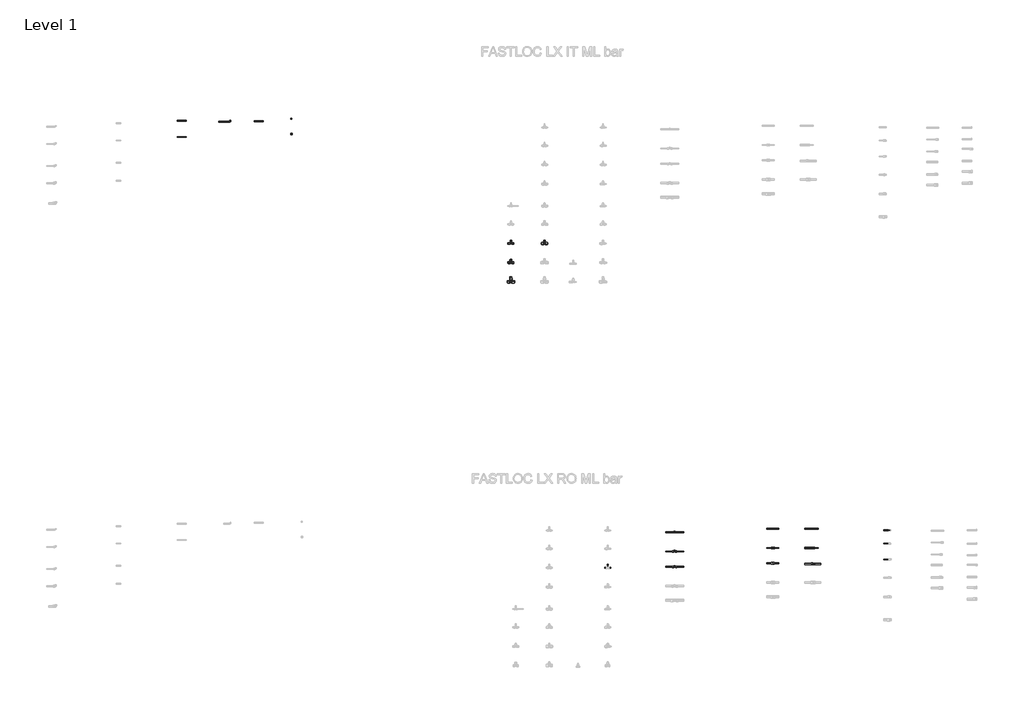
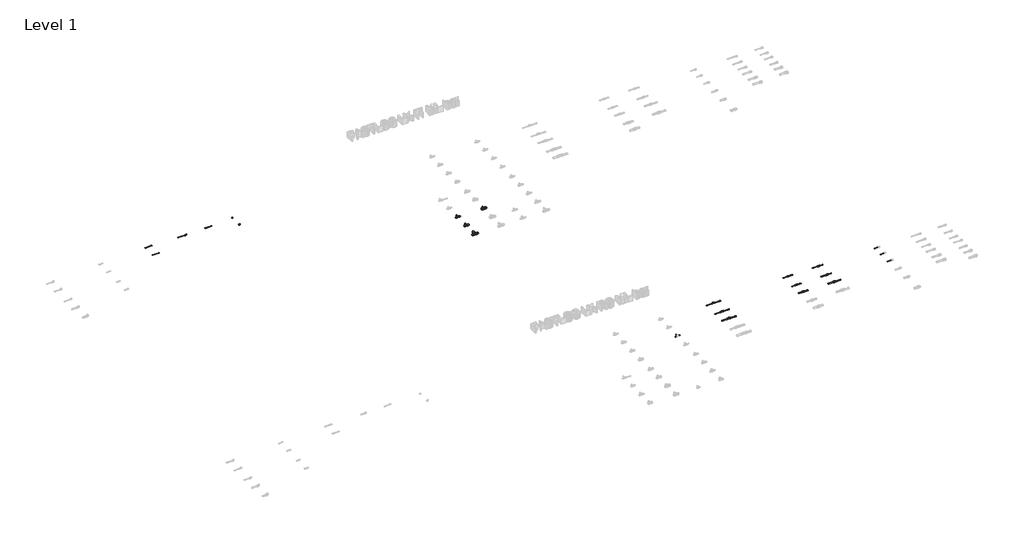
# One storey, part 18 of 78: 40 pipe segments, 16 pipe fittings.
"""IFC4 building model written with IfcOpenShell, lengths in millimetres."""

from ifc_helpers import new_model, si_unit, point, frame, frame_2d, origin, place, context, project, spatial, circle_curve, trimmed, segment, composite_curve, outline, extrude, transform, mapped, element, save
from components import pipe_fitting_ec6341fa, pipe_fitting_027be69e, pipe_fitting_91101529, pipe_fitting_d92d4423, pipe_fitting_0b32e4b0, pipe_fitting_da5243fc, pipe_fitting_29102c59, pipe_fitting_564e9d2e, pipe_fitting_68251213, pipe_fitting_47d0521d, pipe_fitting_29c4d4eb, pipe_fitting_1d22680d, pipe_fitting_5e3c5755, pipe_fitting_0562571e, pipe_fitting_d14a7251, pipe_fitting_24e9e25e

model = new_model("IFC4")

# Units and contexts
model_context = context("Model", 3, world=origin())
ifc_project = project(units=[si_unit("LENGTHUNIT", "METRE", prefix="MILLI")], contexts=[model_context])

# Site, building, storey
site = spatial("IfcSite", under=ifc_project)
building = spatial("IfcBuilding", under=site)
storey = spatial("IfcBuildingStorey", under=building, Name="Level 1", Elevation=0.0)

# Pipe fittings
placement = place(None, origin())
pipe_fitting_shape = pipe_fitting_ec6341fa(model_context)
element("IfcPipeFitting", 1, ObjectType="FASTLOC_Blanking plug LX : FSL Bp LX SK", at=placement, inside=storey, context=model_context, shape_type="MappedRepresentation", body=[
    mapped(pipe_fitting_shape, transform((19535.4857845, -18556.0968766, 0.0), x_axis=(1.0, 0.0, 0.0), y_axis=(0.0, 1.0, 0.0), z_axis=(0.0, 0.0, 1.0))),
])
pipe_fitting_2_shape = pipe_fitting_027be69e(model_context)
element("IfcPipeFitting", 2, ObjectType="FASTLOC_Coupling equal LX : FSL C LX RO", at=placement, inside=storey, context=model_context, shape_type="MappedRepresentation", body=[
    mapped(pipe_fitting_2_shape, transform((29588.3790161, -27105.8821283, 0.0), x_axis=(1.0, 0.0, 0.0), y_axis=(0.0, 1.0, 0.0), z_axis=(0.0, 0.0, 1.0))),
])
pipe_fitting_3_shape = pipe_fitting_91101529(model_context)
element("IfcPipeFitting", 3, ObjectType="FASTLOC_Elbow with male thread G LX : FSL A internal SK", at=placement, inside=storey, context=model_context, shape_type="MappedRepresentation", body=[
    mapped(pipe_fitting_3_shape, transform((18277.9521728, -18619.4468766, 0.0), x_axis=(1.0, 0.0, 0.0), y_axis=(0.0, 1.0, 0.0), z_axis=(0.0, 0.0, 1.0))),
])
pipe_fitting_4_shape = pipe_fitting_d92d4423(model_context)
element("IfcPipeFitting", 4, ObjectType="FASTLOC_T-piece internal thread LX : FSL T thread LX FR", at=placement, inside=storey, context=model_context, shape_type="MappedRepresentation", body=[
    mapped(pipe_fitting_4_shape, transform((27536.609585, -27179.8272875, 0.0), x_axis=(1.0, 0.0, 0.0), y_axis=(0.0, 1.0, 0.0), z_axis=(0.0, 0.0, 1.0))),
])
pipe_fitting_5_shape = pipe_fitting_0b32e4b0(model_context)
element("IfcPipeFitting", 5, ObjectType="FASTLOC_Coupling reduced LX : FSL C LX FR", at=placement, inside=storey, context=model_context, shape_type="MappedRepresentation", body=[
    mapped(pipe_fitting_5_shape, transform((30426.6928556, -27105.8821283, 0.0), x_axis=(1.0, 0.0, 0.0), y_axis=(0.0, 1.0, 0.0), z_axis=(0.0, 0.0, 1.0))),
])
pipe_fitting_6_shape = pipe_fitting_da5243fc(model_context)
element("IfcPipeFitting", 6, ObjectType="FASTLOC_T-piece_LX : FSL T-Piece LX IT", at=placement, inside=storey, context=model_context, shape_type="MappedRepresentation", body=[
    mapped(pipe_fitting_6_shape, transform((24126.7498072, -21160.2405791, 0.0), x_axis=(1.0, 0.0, 0.0), y_axis=(0.0, 1.0, 0.0), z_axis=(0.0, 0.0, 1.0))),
])
pipe_fitting_7_shape = pipe_fitting_29102c59(model_context)
element("IfcPipeFitting", 7, ObjectType="FASTLOC_T-piece_LX : FSL T-Piece LX IT", at=placement, inside=storey, context=model_context, shape_type="MappedRepresentation", body=[
    mapped(pipe_fitting_7_shape, transform((24126.7498072, -21560.2405791, 0.0), x_axis=(1.0, 0.0, 0.0), y_axis=(0.0, 1.0, 0.0), z_axis=(0.0, 0.0, 1.0))),
])
pipe_fitting_8_shape = pipe_fitting_564e9d2e(model_context)
element("IfcPipeFitting", 8, ObjectType="FASTLOC_T-piece_LX : FSL T-Piece LX IT", at=placement, inside=storey, context=model_context, shape_type="MappedRepresentation", body=[
    mapped(pipe_fitting_8_shape, transform((24126.7498072, -21960.2405791, 0.0), x_axis=(1.0, 0.0, 0.0), y_axis=(0.0, 1.0, 0.0), z_axis=(0.0, 0.0, 1.0))),
])
pipe_fitting_9_shape = pipe_fitting_68251213(model_context)
element("IfcPipeFitting", 9, ObjectType="FASTLOC_T-piece_LX : FSL T-Piece LX IT", at=placement, inside=storey, context=model_context, shape_type="MappedRepresentation", body=[
    mapped(pipe_fitting_9_shape, transform((24826.7498072, -21160.2405791, 0.0), x_axis=(1.0, 0.0, 0.0), y_axis=(0.0, 1.0, 0.0), z_axis=(0.0, 0.0, 1.0))),
])
pipe_fitting_10_shape = pipe_fitting_47d0521d(model_context)
element("IfcPipeFitting", 10, ObjectType="FASTLOC_T-piece internal thread LX : FSL T thread LX RO", at=placement, inside=storey, context=model_context, shape_type="MappedRepresentation", body=[
    mapped(pipe_fitting_10_shape, transform((27536.609585, -27579.8272875, 0.0), x_axis=(1.0, 0.0, 0.0), y_axis=(0.0, 1.0, 0.0), z_axis=(0.0, 0.0, 1.0))),
])
pipe_fitting_11_shape = pipe_fitting_29c4d4eb(model_context)
element("IfcPipeFitting", 11, ObjectType="FASTLOC_T-piece internal thread LX : FSL T thread LX RO", at=placement, inside=storey, context=model_context, shape_type="MappedRepresentation", body=[
    mapped(pipe_fitting_11_shape, transform((27536.609585, -27899.8272875, 0.0), x_axis=(1.0, 0.0, 0.0), y_axis=(0.0, 1.0, 0.0), z_axis=(0.0, 0.0, 1.0))),
])
pipe_fitting_12_shape = pipe_fitting_1d22680d(model_context)
element("IfcPipeFitting", 12, ObjectType="FASTLOC_Coupling equal LX : FSL C LX RO", at=placement, inside=storey, context=model_context, shape_type="MappedRepresentation", body=[
    mapped(pipe_fitting_12_shape, transform((29588.3790161, -27505.8821283, 0.0), x_axis=(1.0, 0.0, 0.0), y_axis=(0.0, 1.0, 0.0), z_axis=(0.0, 0.0, 1.0))),
])
pipe_fitting_13_shape = pipe_fitting_5e3c5755(model_context)
element("IfcPipeFitting", 13, ObjectType="FASTLOC_Coupling equal LX : FSL C LX RO", at=placement, inside=storey, context=model_context, shape_type="MappedRepresentation", body=[
    mapped(pipe_fitting_13_shape, transform((29588.3790161, -27825.8821283, 0.0), x_axis=(1.0, 0.0, 0.0), y_axis=(0.0, 1.0, 0.0), z_axis=(0.0, 0.0, 1.0))),
])
pipe_fitting_14_shape = pipe_fitting_0562571e(model_context)
element("IfcPipeFitting", 14, ObjectType="FASTLOC_Coupling reduced LX : FSL C LX RO", at=placement, inside=storey, context=model_context, shape_type="MappedRepresentation", body=[
    mapped(pipe_fitting_14_shape, transform((30426.6928556, -27505.8821283, 0.0), x_axis=(1.0, 0.0, 0.0), y_axis=(0.0, 1.0, 0.0), z_axis=(0.0, 0.0, 1.0))),
])
pipe_fitting_15_shape = pipe_fitting_d14a7251(model_context)
element("IfcPipeFitting", 15, ObjectType="FASTLOC_Coupling reduced LX : FSL C LX RO", at=placement, inside=storey, context=model_context, shape_type="MappedRepresentation", body=[
    mapped(pipe_fitting_15_shape, transform((30426.6928556, -27838.3821283, 0.0), x_axis=(1.0, 0.0, 0.0), y_axis=(0.0, 1.0, 0.0), z_axis=(0.0, 0.0, 1.0))),
])
pipe_fitting_16_shape = pipe_fitting_24e9e25e(model_context)
element("IfcPipeFitting", 16, ObjectType="FASTLOC_Blanking plug LX : FSL Bp LX SK", at=placement, inside=storey, context=model_context, shape_type="MappedRepresentation", body=[
    mapped(pipe_fitting_16_shape, transform((19535.4857845, -18876.0968766, 0.0), x_axis=(1.0, 0.0, 0.0), y_axis=(0.0, 1.0, 0.0), z_axis=(0.0, 0.0, 1.0))),
])

# Pipe segments
element("IfcPipeSegment", 17, ObjectType="FASTLOC LX ML SK bar", at=placement, inside=storey, context=model_context, shape_type="SweptSolid", body=[
    extrude(outline(composite_curve([segment(trimmed(circle_curve(frame_2d((-18556.0968766, 0.0)), 8.0), [point((-18564.0968766, 0.0))], [point((-18556.0968766, 8.0))], False, "CARTESIAN"), True, "CONTINUOUS"), segment(trimmed(circle_curve(frame_2d((-18556.0968766, 0.0)), 8.0), [point((-18556.0968766, 8.0))], [point((-18548.0968766, 0.0))], False, "CARTESIAN"), True, "CONTINUOUS"), segment(trimmed(circle_curve(frame_2d((-18556.0968766, 0.0)), 8.0), [point((-18548.0968766, 0.0))], [point((-18556.0968766, -8.0))], False, "CARTESIAN"), True, "CONTINUOUS"), segment(trimmed(circle_curve(frame_2d((-18556.0968766, 0.0)), 8.0), [point((-18556.0968766, -8.0))], [point((-18564.0968766, 0.0))], False, "CARTESIAN"), True, "CONTINUOUS")], self_intersect=False)), frame((19542.1857845, 0.0, 0.0), z_axis=(1.0, 0.0, 0.0), x_axis=(0.0, 1.0, 0.0)), (0.0, 0.0, 1.0), 14.0),
])
element("IfcPipeSegment", 18, ObjectType="FASTLOC LX ML SK bar", at=placement, inside=storey, context=model_context, shape_type="SweptSolid", body=[
    extrude(outline(composite_curve([segment(trimmed(circle_curve(frame_2d((-18599.4468766, 0.0)), 8.0), [point((-18591.4468766, 0.0))], [point((-18599.4468766, -8.0))], False, "CARTESIAN"), True, "CONTINUOUS"), segment(trimmed(circle_curve(frame_2d((-18599.4468766, 0.0)), 8.0), [point((-18599.4468766, -8.0))], [point((-18607.4468766, 0.0))], False, "CARTESIAN"), True, "CONTINUOUS"), segment(trimmed(circle_curve(frame_2d((-18599.4468766, 0.0)), 8.0), [point((-18607.4468766, 0.0))], [point((-18599.4468766, 8.0))], False, "CARTESIAN"), True, "CONTINUOUS"), segment(trimmed(circle_curve(frame_2d((-18599.4468766, 0.0)), 8.0), [point((-18599.4468766, 8.0))], [point((-18591.4468766, 0.0))], False, "CARTESIAN"), True, "CONTINUOUS")], self_intersect=False)), frame((17170.7335921, 0.0, 0.0), z_axis=(1.0, 0.0, 0.0), x_axis=(0.0, 1.0, 0.0)), (0.0, 0.0, 1.0), 185.0),
])
element("IfcPipeSegment", 19, ObjectType="FASTLOC LX ML SK bar", at=placement, inside=storey, context=model_context, shape_type="SweptSolid", body=[
    extrude(outline(composite_curve([segment(trimmed(circle_curve(frame_2d((-18939.4468766, 0.0)), 8.0), [point((-18931.4468766, 0.0))], [point((-18939.4468766, -8.0))], False, "CARTESIAN"), True, "CONTINUOUS"), segment(trimmed(circle_curve(frame_2d((-18939.4468766, 0.0)), 8.0), [point((-18939.4468766, -8.0))], [point((-18947.4468766, 0.0))], False, "CARTESIAN"), True, "CONTINUOUS"), segment(trimmed(circle_curve(frame_2d((-18939.4468766, 0.0)), 8.0), [point((-18947.4468766, 0.0))], [point((-18939.4468766, 8.0))], False, "CARTESIAN"), True, "CONTINUOUS"), segment(trimmed(circle_curve(frame_2d((-18939.4468766, 0.0)), 8.0), [point((-18939.4468766, 8.0))], [point((-18931.4468766, 0.0))], False, "CARTESIAN"), True, "CONTINUOUS")], self_intersect=False)), frame((17170.7335921, 0.0, 0.0), z_axis=(1.0, 0.0, 0.0), x_axis=(0.0, 1.0, 0.0)), (0.0, 0.0, 1.0), 185.0),
])
element("IfcPipeSegment", 20, ObjectType="FASTLOC LX ML IT bar", at=placement, inside=storey, context=model_context, shape_type="SweptSolid", body=[
    extrude(outline(composite_curve([segment(trimmed(circle_curve(frame_2d((-21160.2405791, 0.0)), 12.5), [point((-21172.7405791, 0.0))], [point((-21160.2405791, 12.5))], False, "CARTESIAN"), True, "CONTINUOUS"), segment(trimmed(circle_curve(frame_2d((-21160.2405791, 0.0)), 12.5), [point((-21160.2405791, 12.5))], [point((-21147.7405791, 0.0))], False, "CARTESIAN"), True, "CONTINUOUS"), segment(trimmed(circle_curve(frame_2d((-21160.2405791, 0.0)), 12.5), [point((-21147.7405791, 0.0))], [point((-21160.2405791, -12.5))], False, "CARTESIAN"), True, "CONTINUOUS"), segment(trimmed(circle_curve(frame_2d((-21160.2405791, 0.0)), 12.5), [point((-21160.2405791, -12.5))], [point((-21172.7405791, 0.0))], False, "CARTESIAN"), True, "CONTINUOUS")], self_intersect=False)), frame((24146.6498072, 0.0, 0.0), z_axis=(1.0, 0.0, 0.0), x_axis=(0.0, 1.0, 0.0)), (0.0, 0.0, 1.0), 42.1),
])
element("IfcPipeSegment", 21, ObjectType="FASTLOC LX ML IT bar", at=placement, inside=storey, context=model_context, shape_type="SweptSolid", body=[
    extrude(outline(composite_curve([segment(trimmed(circle_curve(frame_2d((-21160.2405791, 0.0)), 12.5), [point((-21147.7405791, 0.0))], [point((-21160.2405791, -12.5))], False, "CARTESIAN"), True, "CONTINUOUS"), segment(trimmed(circle_curve(frame_2d((-21160.2405791, 0.0)), 12.5), [point((-21160.2405791, -12.5))], [point((-21172.7405791, 0.0))], False, "CARTESIAN"), True, "CONTINUOUS"), segment(trimmed(circle_curve(frame_2d((-21160.2405791, 0.0)), 12.5), [point((-21172.7405791, 0.0))], [point((-21160.2405791, 12.5))], False, "CARTESIAN"), True, "CONTINUOUS"), segment(trimmed(circle_curve(frame_2d((-21160.2405791, 0.0)), 12.5), [point((-21160.2405791, 12.5))], [point((-21147.7405791, 0.0))], False, "CARTESIAN"), True, "CONTINUOUS")], self_intersect=False)), frame((24064.7498072, 0.0, 0.0), z_axis=(1.0, 0.0, 0.0), x_axis=(0.0, 1.0, 0.0)), (0.0, 0.0, 1.0), 42.1),
])
element("IfcPipeSegment", 22, ObjectType="FASTLOC LX ML IT bar", at=placement, inside=storey, context=model_context, shape_type="SweptSolid", body=[
    extrude(outline(composite_curve([segment(trimmed(circle_curve(frame_2d((0.0, 24126.7498072)), 12.5), [point((0.0, 24139.2498072))], [point((12.5, 24126.7498072))], False, "CARTESIAN"), True, "CONTINUOUS"), segment(trimmed(circle_curve(frame_2d((0.0, 24126.7498072)), 12.5), [point((12.5, 24126.7498072))], [point((0.0, 24114.2498072))], False, "CARTESIAN"), True, "CONTINUOUS"), segment(trimmed(circle_curve(frame_2d((0.0, 24126.7498072)), 12.5), [point((0.0, 24114.2498072))], [point((-12.5, 24126.7498072))], False, "CARTESIAN"), True, "CONTINUOUS"), segment(trimmed(circle_curve(frame_2d((0.0, 24126.7498072)), 12.5), [point((-12.5, 24126.7498072))], [point((0.0, 24139.2498072))], False, "CARTESIAN"), True, "CONTINUOUS")], self_intersect=False)), frame((0.0, -21130.7405791, 0.0), z_axis=(0.0, 1.0, 0.0), x_axis=(0.0, 0.0, 1.0)), (0.0, 0.0, 1.0), 42.8),
])
element("IfcPipeSegment", 23, ObjectType="FASTLOC LX ML IT bar", at=placement, inside=storey, context=model_context, shape_type="SweptSolid", body=[
    extrude(outline(composite_curve([segment(trimmed(circle_curve(frame_2d((-21560.2405791, 0.0)), 16.0), [point((-21576.2405791, 0.0))], [point((-21560.2405791, 16.0))], False, "CARTESIAN"), True, "CONTINUOUS"), segment(trimmed(circle_curve(frame_2d((-21560.2405791, 0.0)), 16.0), [point((-21560.2405791, 16.0))], [point((-21544.2405791, 0.0))], False, "CARTESIAN"), True, "CONTINUOUS"), segment(trimmed(circle_curve(frame_2d((-21560.2405791, 0.0)), 16.0), [point((-21544.2405791, 0.0))], [point((-21560.2405791, -16.0))], False, "CARTESIAN"), True, "CONTINUOUS"), segment(trimmed(circle_curve(frame_2d((-21560.2405791, 0.0)), 16.0), [point((-21560.2405791, -16.0))], [point((-21576.2405791, 0.0))], False, "CARTESIAN"), True, "CONTINUOUS")], self_intersect=False)), frame((24151.5498072, 0.0, 0.0), z_axis=(1.0, 0.0, 0.0), x_axis=(0.0, 1.0, 0.0)), (0.0, 0.0, 1.0), 37.2),
])
element("IfcPipeSegment", 24, ObjectType="FASTLOC LX ML IT bar", at=placement, inside=storey, context=model_context, shape_type="SweptSolid", body=[
    extrude(outline(composite_curve([segment(trimmed(circle_curve(frame_2d((-21560.2405791, 0.0)), 16.0), [point((-21544.2405791, 0.0))], [point((-21560.2405791, -16.0))], False, "CARTESIAN"), True, "CONTINUOUS"), segment(trimmed(circle_curve(frame_2d((-21560.2405791, 0.0)), 16.0), [point((-21560.2405791, -16.0))], [point((-21576.2405791, 0.0))], False, "CARTESIAN"), True, "CONTINUOUS"), segment(trimmed(circle_curve(frame_2d((-21560.2405791, 0.0)), 16.0), [point((-21576.2405791, 0.0))], [point((-21560.2405791, 16.0))], False, "CARTESIAN"), True, "CONTINUOUS"), segment(trimmed(circle_curve(frame_2d((-21560.2405791, 0.0)), 16.0), [point((-21560.2405791, 16.0))], [point((-21544.2405791, 0.0))], False, "CARTESIAN"), True, "CONTINUOUS")], self_intersect=False)), frame((24064.7498072, 0.0, 0.0), z_axis=(1.0, 0.0, 0.0), x_axis=(0.0, 1.0, 0.0)), (0.0, 0.0, 1.0), 37.2),
])
element("IfcPipeSegment", 25, ObjectType="FASTLOC LX ML IT bar", at=placement, inside=storey, context=model_context, shape_type="SweptSolid", body=[
    extrude(outline(composite_curve([segment(trimmed(circle_curve(frame_2d((0.0, 24126.7498072)), 16.0), [point((0.0, 24142.7498072))], [point((16.0, 24126.7498072))], False, "CARTESIAN"), True, "CONTINUOUS"), segment(trimmed(circle_curve(frame_2d((0.0, 24126.7498072)), 16.0), [point((16.0, 24126.7498072))], [point((0.0, 24110.7498072))], False, "CARTESIAN"), True, "CONTINUOUS"), segment(trimmed(circle_curve(frame_2d((0.0, 24126.7498072)), 16.0), [point((0.0, 24110.7498072))], [point((-16.0, 24126.7498072))], False, "CARTESIAN"), True, "CONTINUOUS"), segment(trimmed(circle_curve(frame_2d((0.0, 24126.7498072)), 16.0), [point((-16.0, 24126.7498072))], [point((0.0, 24142.7498072))], False, "CARTESIAN"), True, "CONTINUOUS")], self_intersect=False)), frame((0.0, -21524.1405791, 0.0), z_axis=(0.0, 1.0, 0.0), x_axis=(0.0, 0.0, 1.0)), (0.0, 0.0, 1.0), 36.2),
])
element("IfcPipeSegment", 26, ObjectType="FASTLOC LX ML IT bar", at=placement, inside=storey, context=model_context, shape_type="SweptSolid", body=[
    extrude(outline(composite_curve([segment(trimmed(circle_curve(frame_2d((-21960.2405791, 0.0)), 20.0), [point((-21980.2405791, 0.0))], [point((-21960.2405791, 20.0))], False, "CARTESIAN"), True, "CONTINUOUS"), segment(trimmed(circle_curve(frame_2d((-21960.2405791, 0.0)), 20.0), [point((-21960.2405791, 20.0))], [point((-21940.2405791, 0.0))], False, "CARTESIAN"), True, "CONTINUOUS"), segment(trimmed(circle_curve(frame_2d((-21960.2405791, 0.0)), 20.0), [point((-21940.2405791, 0.0))], [point((-21960.2405791, -20.0))], False, "CARTESIAN"), True, "CONTINUOUS"), segment(trimmed(circle_curve(frame_2d((-21960.2405791, 0.0)), 20.0), [point((-21960.2405791, -20.0))], [point((-21980.2405791, 0.0))], False, "CARTESIAN"), True, "CONTINUOUS")], self_intersect=False)), frame((24158.1498072, 0.0, 0.0), z_axis=(1.0, 0.0, 0.0), x_axis=(0.0, 1.0, 0.0)), (0.0, 0.0, 1.0), 50.0),
])
element("IfcPipeSegment", 27, ObjectType="FASTLOC LX ML IT bar", at=placement, inside=storey, context=model_context, shape_type="SweptSolid", body=[
    extrude(outline(composite_curve([segment(trimmed(circle_curve(frame_2d((-21960.2405791, 0.0)), 20.0), [point((-21940.2405791, 0.0))], [point((-21960.2405791, -20.0))], False, "CARTESIAN"), True, "CONTINUOUS"), segment(trimmed(circle_curve(frame_2d((-21960.2405791, 0.0)), 20.0), [point((-21960.2405791, -20.0))], [point((-21980.2405791, 0.0))], False, "CARTESIAN"), True, "CONTINUOUS"), segment(trimmed(circle_curve(frame_2d((-21960.2405791, 0.0)), 20.0), [point((-21980.2405791, 0.0))], [point((-21960.2405791, 20.0))], False, "CARTESIAN"), True, "CONTINUOUS"), segment(trimmed(circle_curve(frame_2d((-21960.2405791, 0.0)), 20.0), [point((-21960.2405791, 20.0))], [point((-21940.2405791, 0.0))], False, "CARTESIAN"), True, "CONTINUOUS")], self_intersect=False)), frame((24045.3498072, 0.0, 0.0), z_axis=(1.0, 0.0, 0.0), x_axis=(0.0, 1.0, 0.0)), (0.0, 0.0, 1.0), 50.0),
])
element("IfcPipeSegment", 28, ObjectType="FASTLOC LX ML IT bar", at=placement, inside=storey, context=model_context, shape_type="SweptSolid", body=[
    extrude(outline(composite_curve([segment(trimmed(circle_curve(frame_2d((0.0, 24126.7498072)), 20.0), [point((0.0, 24146.7498072))], [point((20.0, 24126.7498072))], False, "CARTESIAN"), True, "CONTINUOUS"), segment(trimmed(circle_curve(frame_2d((0.0, 24126.7498072)), 20.0), [point((20.0, 24126.7498072))], [point((0.0, 24106.7498072))], False, "CARTESIAN"), True, "CONTINUOUS"), segment(trimmed(circle_curve(frame_2d((0.0, 24126.7498072)), 20.0), [point((0.0, 24106.7498072))], [point((-20.0, 24126.7498072))], False, "CARTESIAN"), True, "CONTINUOUS"), segment(trimmed(circle_curve(frame_2d((0.0, 24126.7498072)), 20.0), [point((-20.0, 24126.7498072))], [point((0.0, 24146.7498072))], False, "CARTESIAN"), True, "CONTINUOUS")], self_intersect=False)), frame((0.0, -21915.5405791, 0.0), z_axis=(0.0, 1.0, 0.0), x_axis=(0.0, 0.0, 1.0)), (0.0, 0.0, 1.0), 62.9),
])
element("IfcPipeSegment", 29, ObjectType="FASTLOC LX ML IT bar", at=placement, inside=storey, context=model_context, shape_type="SweptSolid", body=[
    extrude(outline(composite_curve([segment(trimmed(circle_curve(frame_2d((-21160.2405791, 0.0)), 20.0), [point((-21180.2405791, 0.0))], [point((-21160.2405791, 20.0))], False, "CARTESIAN"), True, "CONTINUOUS"), segment(trimmed(circle_curve(frame_2d((-21160.2405791, 0.0)), 20.0), [point((-21160.2405791, 20.0))], [point((-21140.2405791, 0.0))], False, "CARTESIAN"), True, "CONTINUOUS"), segment(trimmed(circle_curve(frame_2d((-21160.2405791, 0.0)), 20.0), [point((-21140.2405791, 0.0))], [point((-21160.2405791, -20.0))], False, "CARTESIAN"), True, "CONTINUOUS"), segment(trimmed(circle_curve(frame_2d((-21160.2405791, 0.0)), 20.0), [point((-21160.2405791, -20.0))], [point((-21180.2405791, 0.0))], False, "CARTESIAN"), True, "CONTINUOUS")], self_intersect=False)), frame((24850.7498072, 0.0, 0.0), z_axis=(1.0, 0.0, 0.0), x_axis=(0.0, 1.0, 0.0)), (0.0, 0.0, 1.0), 45.0),
])
element("IfcPipeSegment", 30, ObjectType="FASTLOC LX ML IT bar", at=placement, inside=storey, context=model_context, shape_type="SweptSolid", body=[
    extrude(outline(composite_curve([segment(trimmed(circle_curve(frame_2d((-21160.2405791, 0.0)), 20.0), [point((-21140.2405791, 0.0))], [point((-21160.2405791, -20.0))], False, "CARTESIAN"), True, "CONTINUOUS"), segment(trimmed(circle_curve(frame_2d((-21160.2405791, 0.0)), 20.0), [point((-21160.2405791, -20.0))], [point((-21180.2405791, 0.0))], False, "CARTESIAN"), True, "CONTINUOUS"), segment(trimmed(circle_curve(frame_2d((-21160.2405791, 0.0)), 20.0), [point((-21180.2405791, 0.0))], [point((-21160.2405791, 20.0))], False, "CARTESIAN"), True, "CONTINUOUS"), segment(trimmed(circle_curve(frame_2d((-21160.2405791, 0.0)), 20.0), [point((-21160.2405791, 20.0))], [point((-21140.2405791, 0.0))], False, "CARTESIAN"), True, "CONTINUOUS")], self_intersect=False)), frame((24757.7498072, 0.0, 0.0), z_axis=(1.0, 0.0, 0.0), x_axis=(0.0, 1.0, 0.0)), (0.0, 0.0, 1.0), 45.0),
])
element("IfcPipeSegment", 31, ObjectType="FASTLOC LX ML RO bar", at=placement, inside=storey, context=model_context, shape_type="SweptSolid", body=[
    extrude(outline(composite_curve([segment(trimmed(circle_curve(frame_2d((-27920.2405791, 0.0)), 8.0), [point((-27928.2405791, 0.0))], [point((-27920.2405791, 8.0))], False, "CARTESIAN"), True, "CONTINUOUS"), segment(trimmed(circle_curve(frame_2d((-27920.2405791, 0.0)), 8.0), [point((-27920.2405791, 8.0))], [point((-27912.2405791, 0.0))], False, "CARTESIAN"), True, "CONTINUOUS"), segment(trimmed(circle_curve(frame_2d((-27920.2405791, 0.0)), 8.0), [point((-27912.2405791, 0.0))], [point((-27920.2405791, -8.0))], False, "CARTESIAN"), True, "CONTINUOUS"), segment(trimmed(circle_curve(frame_2d((-27920.2405791, 0.0)), 8.0), [point((-27920.2405791, -8.0))], [point((-27928.2405791, 0.0))], False, "CARTESIAN"), True, "CONTINUOUS")], self_intersect=False)), frame((26162.2498072, 0.0, 0.0), z_axis=(1.0, 0.0, 0.0), x_axis=(0.0, 1.0, 0.0)), (0.0, 0.0, 1.0), 46.5),
])
element("IfcPipeSegment", 32, ObjectType="FASTLOC LX ML RO bar", at=placement, inside=storey, context=model_context, shape_type="SweptSolid", body=[
    extrude(outline(composite_curve([segment(trimmed(circle_curve(frame_2d((-27920.2405791, 0.0)), 12.5), [point((-27907.7405791, 0.0))], [point((-27920.2405791, -12.5))], False, "CARTESIAN"), True, "CONTINUOUS"), segment(trimmed(circle_curve(frame_2d((-27920.2405791, 0.0)), 12.5), [point((-27920.2405791, -12.5))], [point((-27932.7405791, 0.0))], False, "CARTESIAN"), True, "CONTINUOUS"), segment(trimmed(circle_curve(frame_2d((-27920.2405791, 0.0)), 12.5), [point((-27932.7405791, 0.0))], [point((-27920.2405791, 12.5))], False, "CARTESIAN"), True, "CONTINUOUS"), segment(trimmed(circle_curve(frame_2d((-27920.2405791, 0.0)), 12.5), [point((-27920.2405791, 12.5))], [point((-27907.7405791, 0.0))], False, "CARTESIAN"), True, "CONTINUOUS")], self_intersect=False)), frame((26084.7498072, 0.0, 0.0), z_axis=(1.0, 0.0, 0.0), x_axis=(0.0, 1.0, 0.0)), (0.0, 0.0, 1.0), 45.6),
])
element("IfcPipeSegment", 33, ObjectType="FASTLOC LX ML RO bar", at=placement, inside=storey, context=model_context, shape_type="SweptSolid", body=[
    extrude(outline(composite_curve([segment(trimmed(circle_curve(frame_2d((0.0, 26146.7498072)), 8.0), [point((0.0, 26154.7498072))], [point((8.0, 26146.7498072))], False, "CARTESIAN"), True, "CONTINUOUS"), segment(trimmed(circle_curve(frame_2d((0.0, 26146.7498072)), 8.0), [point((8.0, 26146.7498072))], [point((0.0, 26138.7498072))], False, "CARTESIAN"), True, "CONTINUOUS"), segment(trimmed(circle_curve(frame_2d((0.0, 26146.7498072)), 8.0), [point((0.0, 26138.7498072))], [point((-8.0, 26146.7498072))], False, "CARTESIAN"), True, "CONTINUOUS"), segment(trimmed(circle_curve(frame_2d((0.0, 26146.7498072)), 8.0), [point((-8.0, 26146.7498072))], [point((0.0, 26154.7498072))], False, "CARTESIAN"), True, "CONTINUOUS")], self_intersect=False)), frame((0.0, -27891.1405791, 0.0), z_axis=(0.0, 1.0, 0.0), x_axis=(0.0, 0.0, 1.0)), (0.0, 0.0, 1.0), 43.2),
])
element("IfcPipeSegment", 34, ObjectType="FASTLOC LX ML RO bar", at=placement, inside=storey, context=model_context, shape_type="SweptSolid", body=[
    extrude(outline(composite_curve([segment(trimmed(circle_curve(frame_2d((-27179.8272875, 0.0)), 8.0), [point((-27187.8272875, 0.0))], [point((-27179.8272875, 8.0))], False, "CARTESIAN"), True, "CONTINUOUS"), segment(trimmed(circle_curve(frame_2d((-27179.8272875, 0.0)), 8.0), [point((-27179.8272875, 8.0))], [point((-27171.8272875, 0.0))], False, "CARTESIAN"), True, "CONTINUOUS"), segment(trimmed(circle_curve(frame_2d((-27179.8272875, 0.0)), 8.0), [point((-27171.8272875, 0.0))], [point((-27179.8272875, -8.0))], False, "CARTESIAN"), True, "CONTINUOUS"), segment(trimmed(circle_curve(frame_2d((-27179.8272875, 0.0)), 8.0), [point((-27179.8272875, -8.0))], [point((-27187.8272875, 0.0))], False, "CARTESIAN"), True, "CONTINUOUS")], self_intersect=False)), frame((27558.609585, 0.0, 0.0), z_axis=(1.0, 0.0, 0.0), x_axis=(0.0, 1.0, 0.0)), (0.0, 0.0, 1.0), 170.0),
])
element("IfcPipeSegment", 35, ObjectType="FASTLOC LX ML RO bar", at=placement, inside=storey, context=model_context, shape_type="SweptSolid", body=[
    extrude(outline(composite_curve([segment(trimmed(circle_curve(frame_2d((-27179.8272875, 0.0)), 8.0), [point((-27171.8272875, 0.0))], [point((-27179.8272875, -8.0))], False, "CARTESIAN"), True, "CONTINUOUS"), segment(trimmed(circle_curve(frame_2d((-27179.8272875, 0.0)), 8.0), [point((-27179.8272875, -8.0))], [point((-27187.8272875, 0.0))], False, "CARTESIAN"), True, "CONTINUOUS"), segment(trimmed(circle_curve(frame_2d((-27179.8272875, 0.0)), 8.0), [point((-27187.8272875, 0.0))], [point((-27179.8272875, 8.0))], False, "CARTESIAN"), True, "CONTINUOUS"), segment(trimmed(circle_curve(frame_2d((-27179.8272875, 0.0)), 8.0), [point((-27179.8272875, 8.0))], [point((-27171.8272875, 0.0))], False, "CARTESIAN"), True, "CONTINUOUS")], self_intersect=False)), frame((27349.609585, 0.0, 0.0), z_axis=(1.0, 0.0, 0.0), x_axis=(0.0, 1.0, 0.0)), (0.0, 0.0, 1.0), 165.0),
])
element("IfcPipeSegment", 36, ObjectType="FASTLOC LX ML RO bar", at=placement, inside=storey, context=model_context, shape_type="SweptSolid", body=[
    extrude(outline(composite_curve([segment(trimmed(circle_curve(frame_2d((-27579.8272875, 0.0)), 8.0), [point((-27587.8272875, 0.0))], [point((-27579.8272875, 8.0))], False, "CARTESIAN"), True, "CONTINUOUS"), segment(trimmed(circle_curve(frame_2d((-27579.8272875, 0.0)), 8.0), [point((-27579.8272875, 8.0))], [point((-27571.8272875, 0.0))], False, "CARTESIAN"), True, "CONTINUOUS"), segment(trimmed(circle_curve(frame_2d((-27579.8272875, 0.0)), 8.0), [point((-27571.8272875, 0.0))], [point((-27579.8272875, -8.0))], False, "CARTESIAN"), True, "CONTINUOUS"), segment(trimmed(circle_curve(frame_2d((-27579.8272875, 0.0)), 8.0), [point((-27579.8272875, -8.0))], [point((-27587.8272875, 0.0))], False, "CARTESIAN"), True, "CONTINUOUS")], self_intersect=False)), frame((27559.109585, 0.0, 0.0), z_axis=(1.0, 0.0, 0.0), x_axis=(0.0, 1.0, 0.0)), (0.0, 0.0, 1.0), 169.5),
])
element("IfcPipeSegment", 37, ObjectType="FASTLOC LX ML RO bar", at=placement, inside=storey, context=model_context, shape_type="SweptSolid", body=[
    extrude(outline(composite_curve([segment(trimmed(circle_curve(frame_2d((-27579.8272875, 0.0)), 8.0), [point((-27571.8272875, 0.0))], [point((-27579.8272875, -8.0))], False, "CARTESIAN"), True, "CONTINUOUS"), segment(trimmed(circle_curve(frame_2d((-27579.8272875, 0.0)), 8.0), [point((-27579.8272875, -8.0))], [point((-27587.8272875, 0.0))], False, "CARTESIAN"), True, "CONTINUOUS"), segment(trimmed(circle_curve(frame_2d((-27579.8272875, 0.0)), 8.0), [point((-27587.8272875, 0.0))], [point((-27579.8272875, 8.0))], False, "CARTESIAN"), True, "CONTINUOUS"), segment(trimmed(circle_curve(frame_2d((-27579.8272875, 0.0)), 8.0), [point((-27579.8272875, 8.0))], [point((-27571.8272875, 0.0))], False, "CARTESIAN"), True, "CONTINUOUS")], self_intersect=False)), frame((27349.609585, 0.0, 0.0), z_axis=(1.0, 0.0, 0.0), x_axis=(0.0, 1.0, 0.0)), (0.0, 0.0, 1.0), 164.5),
])
element("IfcPipeSegment", 38, ObjectType="FASTLOC LX ML RO bar", at=placement, inside=storey, context=model_context, shape_type="SweptSolid", body=[
    extrude(outline(composite_curve([segment(trimmed(circle_curve(frame_2d((-27899.8272875, 0.0)), 12.5), [point((-27912.3272875, 0.0))], [point((-27899.8272875, 12.5))], False, "CARTESIAN"), True, "CONTINUOUS"), segment(trimmed(circle_curve(frame_2d((-27899.8272875, 0.0)), 12.5), [point((-27899.8272875, 12.5))], [point((-27887.3272875, 0.0))], False, "CARTESIAN"), True, "CONTINUOUS"), segment(trimmed(circle_curve(frame_2d((-27899.8272875, 0.0)), 12.5), [point((-27887.3272875, 0.0))], [point((-27899.8272875, -12.5))], False, "CARTESIAN"), True, "CONTINUOUS"), segment(trimmed(circle_curve(frame_2d((-27899.8272875, 0.0)), 12.5), [point((-27899.8272875, -12.5))], [point((-27912.3272875, 0.0))], False, "CARTESIAN"), True, "CONTINUOUS")], self_intersect=False)), frame((27563.309585, 0.0, 0.0), z_axis=(1.0, 0.0, 0.0), x_axis=(0.0, 1.0, 0.0)), (0.0, 0.0, 1.0), 165.3),
])
element("IfcPipeSegment", 39, ObjectType="FASTLOC LX ML RO bar", at=placement, inside=storey, context=model_context, shape_type="SweptSolid", body=[
    extrude(outline(composite_curve([segment(trimmed(circle_curve(frame_2d((-27899.8272875, 0.0)), 12.5), [point((-27887.3272875, 0.0))], [point((-27899.8272875, -12.5))], False, "CARTESIAN"), True, "CONTINUOUS"), segment(trimmed(circle_curve(frame_2d((-27899.8272875, 0.0)), 12.5), [point((-27899.8272875, -12.5))], [point((-27912.3272875, 0.0))], False, "CARTESIAN"), True, "CONTINUOUS"), segment(trimmed(circle_curve(frame_2d((-27899.8272875, 0.0)), 12.5), [point((-27912.3272875, 0.0))], [point((-27899.8272875, 12.5))], False, "CARTESIAN"), True, "CONTINUOUS"), segment(trimmed(circle_curve(frame_2d((-27899.8272875, 0.0)), 12.5), [point((-27899.8272875, 12.5))], [point((-27887.3272875, 0.0))], False, "CARTESIAN"), True, "CONTINUOUS")], self_intersect=False)), frame((27349.609585, 0.0, 0.0), z_axis=(1.0, 0.0, 0.0), x_axis=(0.0, 1.0, 0.0)), (0.0, 0.0, 1.0), 160.3),
])
element("IfcPipeSegment", 40, ObjectType="FASTLOC LX ML RO bar", at=placement, inside=storey, context=model_context, shape_type="SweptSolid", body=[
    extrude(outline(composite_curve([segment(trimmed(circle_curve(frame_2d((-27105.8821283, 0.0)), 8.0), [point((-27113.8821283, 0.0))], [point((-27105.8821283, 8.0))], False, "CARTESIAN"), True, "CONTINUOUS"), segment(trimmed(circle_curve(frame_2d((-27105.8821283, 0.0)), 8.0), [point((-27105.8821283, 8.0))], [point((-27097.8821283, 0.0))], False, "CARTESIAN"), True, "CONTINUOUS"), segment(trimmed(circle_curve(frame_2d((-27105.8821283, 0.0)), 8.0), [point((-27097.8821283, 0.0))], [point((-27105.8821283, -8.0))], False, "CARTESIAN"), True, "CONTINUOUS"), segment(trimmed(circle_curve(frame_2d((-27105.8821283, 0.0)), 8.0), [point((-27105.8821283, -8.0))], [point((-27113.8821283, 0.0))], False, "CARTESIAN"), True, "CONTINUOUS")], self_intersect=False)), frame((29595.5790161, 0.0, 0.0), z_axis=(1.0, 0.0, 0.0), x_axis=(0.0, 1.0, 0.0)), (0.0, 0.0, 1.0), 115.0),
])
element("IfcPipeSegment", 41, ObjectType="FASTLOC LX ML RO bar", at=placement, inside=storey, context=model_context, shape_type="SweptSolid", body=[
    extrude(outline(composite_curve([segment(trimmed(circle_curve(frame_2d((-27105.8821283, 0.0)), 8.0), [point((-27097.8821283, 0.0))], [point((-27105.8821283, -8.0))], False, "CARTESIAN"), True, "CONTINUOUS"), segment(trimmed(circle_curve(frame_2d((-27105.8821283, 0.0)), 8.0), [point((-27105.8821283, -8.0))], [point((-27113.8821283, 0.0))], False, "CARTESIAN"), True, "CONTINUOUS"), segment(trimmed(circle_curve(frame_2d((-27105.8821283, 0.0)), 8.0), [point((-27113.8821283, 0.0))], [point((-27105.8821283, 8.0))], False, "CARTESIAN"), True, "CONTINUOUS"), segment(trimmed(circle_curve(frame_2d((-27105.8821283, 0.0)), 8.0), [point((-27105.8821283, 8.0))], [point((-27097.8821283, 0.0))], False, "CARTESIAN"), True, "CONTINUOUS")], self_intersect=False)), frame((29461.1790161, 0.0, 0.0), z_axis=(1.0, 0.0, 0.0), x_axis=(0.0, 1.0, 0.0)), (0.0, 0.0, 1.0), 120.0),
])
element("IfcPipeSegment", 42, ObjectType="FASTLOC LX ML RO bar", at=placement, inside=storey, context=model_context, shape_type="SweptSolid", body=[
    extrude(outline(composite_curve([segment(trimmed(circle_curve(frame_2d((-27505.8821283, 0.0)), 8.0), [point((-27513.8821283, 0.0))], [point((-27505.8821283, 8.0))], False, "CARTESIAN"), True, "CONTINUOUS"), segment(trimmed(circle_curve(frame_2d((-27505.8821283, 0.0)), 8.0), [point((-27505.8821283, 8.0))], [point((-27497.8821283, 0.0))], False, "CARTESIAN"), True, "CONTINUOUS"), segment(trimmed(circle_curve(frame_2d((-27505.8821283, 0.0)), 8.0), [point((-27497.8821283, 0.0))], [point((-27505.8821283, -8.0))], False, "CARTESIAN"), True, "CONTINUOUS"), segment(trimmed(circle_curve(frame_2d((-27505.8821283, 0.0)), 8.0), [point((-27505.8821283, -8.0))], [point((-27513.8821283, 0.0))], False, "CARTESIAN"), True, "CONTINUOUS")], self_intersect=False)), frame((29595.7790161, 0.0, 0.0), z_axis=(1.0, 0.0, 0.0), x_axis=(0.0, 1.0, 0.0)), (0.0, 0.0, 1.0), 114.8),
])
element("IfcPipeSegment", 43, ObjectType="FASTLOC LX ML RO bar", at=placement, inside=storey, context=model_context, shape_type="SweptSolid", body=[
    extrude(outline(composite_curve([segment(trimmed(circle_curve(frame_2d((-27505.8821283, 0.0)), 8.0), [point((-27497.8821283, 0.0))], [point((-27505.8821283, -8.0))], False, "CARTESIAN"), True, "CONTINUOUS"), segment(trimmed(circle_curve(frame_2d((-27505.8821283, 0.0)), 8.0), [point((-27505.8821283, -8.0))], [point((-27513.8821283, 0.0))], False, "CARTESIAN"), True, "CONTINUOUS"), segment(trimmed(circle_curve(frame_2d((-27505.8821283, 0.0)), 8.0), [point((-27513.8821283, 0.0))], [point((-27505.8821283, 8.0))], False, "CARTESIAN"), True, "CONTINUOUS"), segment(trimmed(circle_curve(frame_2d((-27505.8821283, 0.0)), 8.0), [point((-27505.8821283, 8.0))], [point((-27497.8821283, 0.0))], False, "CARTESIAN"), True, "CONTINUOUS")], self_intersect=False)), frame((29461.1790161, 0.0, 0.0), z_axis=(1.0, 0.0, 0.0), x_axis=(0.0, 1.0, 0.0)), (0.0, 0.0, 1.0), 119.8),
])
element("IfcPipeSegment", 44, ObjectType="FASTLOC LX ML RO bar", at=placement, inside=storey, context=model_context, shape_type="SweptSolid", body=[
    extrude(outline(composite_curve([segment(trimmed(circle_curve(frame_2d((-27825.8821283, 0.0)), 12.5), [point((-27838.3821283, 0.0))], [point((-27825.8821283, 12.5))], False, "CARTESIAN"), True, "CONTINUOUS"), segment(trimmed(circle_curve(frame_2d((-27825.8821283, 0.0)), 12.5), [point((-27825.8821283, 12.5))], [point((-27813.3821283, 0.0))], False, "CARTESIAN"), True, "CONTINUOUS"), segment(trimmed(circle_curve(frame_2d((-27825.8821283, 0.0)), 12.5), [point((-27813.3821283, 0.0))], [point((-27825.8821283, -12.5))], False, "CARTESIAN"), True, "CONTINUOUS"), segment(trimmed(circle_curve(frame_2d((-27825.8821283, 0.0)), 12.5), [point((-27825.8821283, -12.5))], [point((-27838.3821283, 0.0))], False, "CARTESIAN"), True, "CONTINUOUS")], self_intersect=False)), frame((29596.3790161, 0.0, 0.0), z_axis=(1.0, 0.0, 0.0), x_axis=(0.0, 1.0, 0.0)), (0.0, 0.0, 1.0), 114.2),
])
element("IfcPipeSegment", 45, ObjectType="FASTLOC LX ML RO bar", at=placement, inside=storey, context=model_context, shape_type="SweptSolid", body=[
    extrude(outline(composite_curve([segment(trimmed(circle_curve(frame_2d((-27825.8821283, 0.0)), 12.5), [point((-27813.3821283, 0.0))], [point((-27825.8821283, -12.5))], False, "CARTESIAN"), True, "CONTINUOUS"), segment(trimmed(circle_curve(frame_2d((-27825.8821283, 0.0)), 12.5), [point((-27825.8821283, -12.5))], [point((-27838.3821283, 0.0))], False, "CARTESIAN"), True, "CONTINUOUS"), segment(trimmed(circle_curve(frame_2d((-27825.8821283, 0.0)), 12.5), [point((-27838.3821283, 0.0))], [point((-27825.8821283, 12.5))], False, "CARTESIAN"), True, "CONTINUOUS"), segment(trimmed(circle_curve(frame_2d((-27825.8821283, 0.0)), 12.5), [point((-27825.8821283, 12.5))], [point((-27813.3821283, 0.0))], False, "CARTESIAN"), True, "CONTINUOUS")], self_intersect=False)), frame((29461.1790161, 0.0, 0.0), z_axis=(1.0, 0.0, 0.0), x_axis=(0.0, 1.0, 0.0)), (0.0, 0.0, 1.0), 119.2),
])
element("IfcPipeSegment", 46, ObjectType="FASTLOC LX ML RO bar", at=placement, inside=storey, context=model_context, shape_type="SweptSolid", body=[
    extrude(outline(composite_curve([segment(trimmed(circle_curve(frame_2d((-27105.8821283, 0.0)), 8.0), [point((-27113.8821283, 0.0))], [point((-27105.8821283, 8.0))], False, "CARTESIAN"), True, "CONTINUOUS"), segment(trimmed(circle_curve(frame_2d((-27105.8821283, 0.0)), 8.0), [point((-27105.8821283, 8.0))], [point((-27097.8821283, 0.0))], False, "CARTESIAN"), True, "CONTINUOUS"), segment(trimmed(circle_curve(frame_2d((-27105.8821283, 0.0)), 8.0), [point((-27097.8821283, 0.0))], [point((-27105.8821283, -8.0))], False, "CARTESIAN"), True, "CONTINUOUS"), segment(trimmed(circle_curve(frame_2d((-27105.8821283, 0.0)), 8.0), [point((-27105.8821283, -8.0))], [point((-27113.8821283, 0.0))], False, "CARTESIAN"), True, "CONTINUOUS")], self_intersect=False)), frame((30432.9928556, 0.0, 0.0), z_axis=(1.0, 0.0, 0.0), x_axis=(0.0, 1.0, 0.0)), (0.0, 0.0, 1.0), 95.0),
])
element("IfcPipeSegment", 47, ObjectType="FASTLOC LX ML RO bar", at=placement, inside=storey, context=model_context, shape_type="SweptSolid", body=[
    extrude(outline(composite_curve([segment(trimmed(circle_curve(frame_2d((-27105.8821283, 0.0)), 8.0), [point((-27097.8821283, 0.0))], [point((-27105.8821283, -8.0))], False, "CARTESIAN"), True, "CONTINUOUS"), segment(trimmed(circle_curve(frame_2d((-27105.8821283, 0.0)), 8.0), [point((-27105.8821283, -8.0))], [point((-27113.8821283, 0.0))], False, "CARTESIAN"), True, "CONTINUOUS"), segment(trimmed(circle_curve(frame_2d((-27105.8821283, 0.0)), 8.0), [point((-27113.8821283, 0.0))], [point((-27105.8821283, 8.0))], False, "CARTESIAN"), True, "CONTINUOUS"), segment(trimmed(circle_curve(frame_2d((-27105.8821283, 0.0)), 8.0), [point((-27105.8821283, 8.0))], [point((-27097.8821283, 0.0))], False, "CARTESIAN"), True, "CONTINUOUS")], self_intersect=False)), frame((30252.9928556, 0.0, 0.0), z_axis=(1.0, 0.0, 0.0), x_axis=(0.0, 1.0, 0.0)), (0.0, 0.0, 1.0), 165.0),
])
element("IfcPipeSegment", 48, ObjectType="FASTLOC LX ML RO bar", at=placement, inside=storey, context=model_context, shape_type="SweptSolid", body=[
    extrude(outline(composite_curve([segment(trimmed(circle_curve(frame_2d((-27505.8821283, 0.0)), 12.5), [point((-27493.3821283, 0.0))], [point((-27505.8821283, -12.5))], False, "CARTESIAN"), True, "CONTINUOUS"), segment(trimmed(circle_curve(frame_2d((-27505.8821283, 0.0)), 12.5), [point((-27505.8821283, -12.5))], [point((-27518.3821283, 0.0))], False, "CARTESIAN"), True, "CONTINUOUS"), segment(trimmed(circle_curve(frame_2d((-27505.8821283, 0.0)), 12.5), [point((-27518.3821283, 0.0))], [point((-27505.8821283, 12.5))], False, "CARTESIAN"), True, "CONTINUOUS"), segment(trimmed(circle_curve(frame_2d((-27505.8821283, 0.0)), 12.5), [point((-27505.8821283, 12.5))], [point((-27493.3821283, 0.0))], False, "CARTESIAN"), True, "CONTINUOUS")], self_intersect=False)), frame((30252.9928556, 0.0, 0.0), z_axis=(1.0, 0.0, 0.0), x_axis=(0.0, 1.0, 0.0)), (0.0, 0.0, 1.0), 163.9),
])
element("IfcPipeSegment", 49, ObjectType="FASTLOC LX ML RO bar", at=placement, inside=storey, context=model_context, shape_type="SweptSolid", body=[
    extrude(outline(composite_curve([segment(trimmed(circle_curve(frame_2d((-27505.8821283, 0.0)), 8.0), [point((-27513.8821283, 0.0))], [point((-27505.8821283, 8.0))], False, "CARTESIAN"), True, "CONTINUOUS"), segment(trimmed(circle_curve(frame_2d((-27505.8821283, 0.0)), 8.0), [point((-27505.8821283, 8.0))], [point((-27497.8821283, 0.0))], False, "CARTESIAN"), True, "CONTINUOUS"), segment(trimmed(circle_curve(frame_2d((-27505.8821283, 0.0)), 8.0), [point((-27497.8821283, 0.0))], [point((-27505.8821283, -8.0))], False, "CARTESIAN"), True, "CONTINUOUS"), segment(trimmed(circle_curve(frame_2d((-27505.8821283, 0.0)), 8.0), [point((-27505.8821283, -8.0))], [point((-27513.8821283, 0.0))], False, "CARTESIAN"), True, "CONTINUOUS")], self_intersect=False)), frame((30432.3928556, 0.0, 0.0), z_axis=(1.0, 0.0, 0.0), x_axis=(0.0, 1.0, 0.0)), (0.0, 0.0, 1.0), 95.6),
])
element("IfcPipeSegment", 50, ObjectType="FASTLOC LX ML RO bar", at=placement, inside=storey, context=model_context, shape_type="SweptSolid", body=[
    extrude(outline(composite_curve([segment(trimmed(circle_curve(frame_2d((-27135.7057457, 0.0)), 8.0), [point((-27127.7057457, 0.0))], [point((-27135.7057457, -8.0))], False, "CARTESIAN"), True, "CONTINUOUS"), segment(trimmed(circle_curve(frame_2d((-27135.7057457, 0.0)), 8.0), [point((-27135.7057457, -8.0))], [point((-27143.7057457, 0.0))], False, "CARTESIAN"), True, "CONTINUOUS"), segment(trimmed(circle_curve(frame_2d((-27135.7057457, 0.0)), 8.0), [point((-27143.7057457, 0.0))], [point((-27135.7057457, 8.0))], False, "CARTESIAN"), True, "CONTINUOUS"), segment(trimmed(circle_curve(frame_2d((-27135.7057457, 0.0)), 8.0), [point((-27135.7057457, 8.0))], [point((-27127.7057457, 0.0))], False, "CARTESIAN"), True, "CONTINUOUS")], self_intersect=False)), frame((31902.0785179, 0.0, 0.0), z_axis=(1.0, 0.0, 0.0), x_axis=(0.0, 1.0, 0.0)), (0.0, 0.0, 1.0), 115.4),
])
element("IfcPipeSegment", 51, ObjectType="FASTLOC LX ML RO bar", at=placement, inside=storey, context=model_context, shape_type="SweptSolid", body=[
    extrude(outline(composite_curve([segment(trimmed(circle_curve(frame_2d((-27414.2068389, 0.0)), 8.0), [point((-27406.2068389, 0.0))], [point((-27414.2068389, -8.0))], False, "CARTESIAN"), True, "CONTINUOUS"), segment(trimmed(circle_curve(frame_2d((-27414.2068389, 0.0)), 8.0), [point((-27414.2068389, -8.0))], [point((-27422.2068389, 0.0))], False, "CARTESIAN"), True, "CONTINUOUS"), segment(trimmed(circle_curve(frame_2d((-27414.2068389, 0.0)), 8.0), [point((-27422.2068389, 0.0))], [point((-27414.2068389, 8.0))], False, "CARTESIAN"), True, "CONTINUOUS"), segment(trimmed(circle_curve(frame_2d((-27414.2068389, 0.0)), 8.0), [point((-27414.2068389, 8.0))], [point((-27406.2068389, 0.0))], False, "CARTESIAN"), True, "CONTINUOUS")], self_intersect=False)), frame((31902.0785179, 0.0, 0.0), z_axis=(1.0, 0.0, 0.0), x_axis=(0.0, 1.0, 0.0)), (0.0, 0.0, 1.0), 116.1167951),
])
element("IfcPipeSegment", 52, ObjectType="FASTLOC LX ML RO bar", at=placement, inside=storey, context=model_context, shape_type="SweptSolid", body=[
    extrude(outline(composite_curve([segment(trimmed(circle_curve(frame_2d((-27744.2068389, 0.0)), 8.0), [point((-27736.2068389, 0.0))], [point((-27744.2068389, -8.0))], False, "CARTESIAN"), True, "CONTINUOUS"), segment(trimmed(circle_curve(frame_2d((-27744.2068389, 0.0)), 8.0), [point((-27744.2068389, -8.0))], [point((-27752.2068389, 0.0))], False, "CARTESIAN"), True, "CONTINUOUS"), segment(trimmed(circle_curve(frame_2d((-27744.2068389, 0.0)), 8.0), [point((-27752.2068389, 0.0))], [point((-27744.2068389, 8.0))], False, "CARTESIAN"), True, "CONTINUOUS"), segment(trimmed(circle_curve(frame_2d((-27744.2068389, 0.0)), 8.0), [point((-27744.2068389, 8.0))], [point((-27736.2068389, 0.0))], False, "CARTESIAN"), True, "CONTINUOUS")], self_intersect=False)), frame((31902.0785179, 0.0, 0.0), z_axis=(1.0, 0.0, 0.0), x_axis=(0.0, 1.0, 0.0)), (0.0, 0.0, 1.0), 115.5167951),
])
element("IfcPipeSegment", 53, ObjectType="FASTLOC LX ML RO bar", at=placement, inside=storey, context=model_context, shape_type="SweptSolid", body=[
    extrude(outline(composite_curve([segment(trimmed(circle_curve(frame_2d((-27838.3821283, 0.0)), 16.0), [point((-27822.3821283, 0.0))], [point((-27838.3821283, -16.0))], False, "CARTESIAN"), True, "CONTINUOUS"), segment(trimmed(circle_curve(frame_2d((-27838.3821283, 0.0)), 16.0), [point((-27838.3821283, -16.0))], [point((-27854.3821283, 0.0))], False, "CARTESIAN"), True, "CONTINUOUS"), segment(trimmed(circle_curve(frame_2d((-27838.3821283, 0.0)), 16.0), [point((-27854.3821283, 0.0))], [point((-27838.3821283, 16.0))], False, "CARTESIAN"), True, "CONTINUOUS"), segment(trimmed(circle_curve(frame_2d((-27838.3821283, 0.0)), 16.0), [point((-27838.3821283, 16.0))], [point((-27822.3821283, 0.0))], False, "CARTESIAN"), True, "CONTINUOUS")], self_intersect=False)), frame((30252.9928556, 0.0, 0.0), z_axis=(1.0, 0.0, 0.0), x_axis=(0.0, 1.0, 0.0)), (0.0, 0.0, 1.0), 161.3),
])
element("IfcPipeSegment", 54, ObjectType="FASTLOC LX ML RO bar", at=placement, inside=storey, context=model_context, shape_type="SweptSolid", body=[
    extrude(outline(composite_curve([segment(trimmed(circle_curve(frame_2d((-27838.3821283, 0.0)), 12.5), [point((-27850.8821283, 0.0))], [point((-27838.3821283, 12.5))], False, "CARTESIAN"), True, "CONTINUOUS"), segment(trimmed(circle_curve(frame_2d((-27838.3821283, 0.0)), 12.5), [point((-27838.3821283, 12.5))], [point((-27825.8821283, 0.0))], False, "CARTESIAN"), True, "CONTINUOUS"), segment(trimmed(circle_curve(frame_2d((-27838.3821283, 0.0)), 12.5), [point((-27825.8821283, 0.0))], [point((-27838.3821283, -12.5))], False, "CARTESIAN"), True, "CONTINUOUS"), segment(trimmed(circle_curve(frame_2d((-27838.3821283, 0.0)), 12.5), [point((-27838.3821283, -12.5))], [point((-27850.8821283, 0.0))], False, "CARTESIAN"), True, "CONTINUOUS")], self_intersect=False)), frame((30432.4928556, 0.0, 0.0), z_axis=(1.0, 0.0, 0.0), x_axis=(0.0, 1.0, 0.0)), (0.0, 0.0, 1.0), 155.1),
])
element("IfcPipeSegment", 55, ObjectType="FASTLOC LX ML SK bar", at=placement, inside=storey, context=model_context, shape_type="SweptSolid", body=[
    extrude(outline(composite_curve([segment(trimmed(circle_curve(frame_2d((-18619.4468766, 0.0)), 8.0), [point((-18611.4468766, 0.0))], [point((-18619.4468766, -8.0))], False, "CARTESIAN"), True, "CONTINUOUS"), segment(trimmed(circle_curve(frame_2d((-18619.4468766, 0.0)), 8.0), [point((-18619.4468766, -8.0))], [point((-18627.4468766, 0.0))], False, "CARTESIAN"), True, "CONTINUOUS"), segment(trimmed(circle_curve(frame_2d((-18619.4468766, 0.0)), 8.0), [point((-18627.4468766, 0.0))], [point((-18619.4468766, 8.0))], False, "CARTESIAN"), True, "CONTINUOUS"), segment(trimmed(circle_curve(frame_2d((-18619.4468766, 0.0)), 8.0), [point((-18619.4468766, 8.0))], [point((-18611.4468766, 0.0))], False, "CARTESIAN"), True, "CONTINUOUS")], self_intersect=False)), frame((18040.1521728, 0.0, 0.0), z_axis=(1.0, 0.0, 0.0), x_axis=(0.0, 1.0, 0.0)), (0.0, 0.0, 1.0), 220.0),
])
element("IfcPipeSegment", 56, ObjectType="FASTLOC LX ML SK bar", at=placement, inside=storey, context=model_context, shape_type="SweptSolid", body=[
    extrude(outline(composite_curve([segment(trimmed(circle_curve(frame_2d((-18609.4468766, 0.0)), 8.0), [point((-18601.4468766, 0.0))], [point((-18609.4468766, -8.0))], False, "CARTESIAN"), True, "CONTINUOUS"), segment(trimmed(circle_curve(frame_2d((-18609.4468766, 0.0)), 8.0), [point((-18609.4468766, -8.0))], [point((-18617.4468766, 0.0))], False, "CARTESIAN"), True, "CONTINUOUS"), segment(trimmed(circle_curve(frame_2d((-18609.4468766, 0.0)), 8.0), [point((-18617.4468766, 0.0))], [point((-18609.4468766, 8.0))], False, "CARTESIAN"), True, "CONTINUOUS"), segment(trimmed(circle_curve(frame_2d((-18609.4468766, 0.0)), 8.0), [point((-18609.4468766, 8.0))], [point((-18601.4468766, 0.0))], False, "CARTESIAN"), True, "CONTINUOUS")], self_intersect=False)), frame((18780.9061427, 0.0, 0.0), z_axis=(1.0, 0.0, 0.0), x_axis=(0.0, 1.0, 0.0)), (0.0, 0.0, 1.0), 180.0),
])

save(model, "model.ifc")
